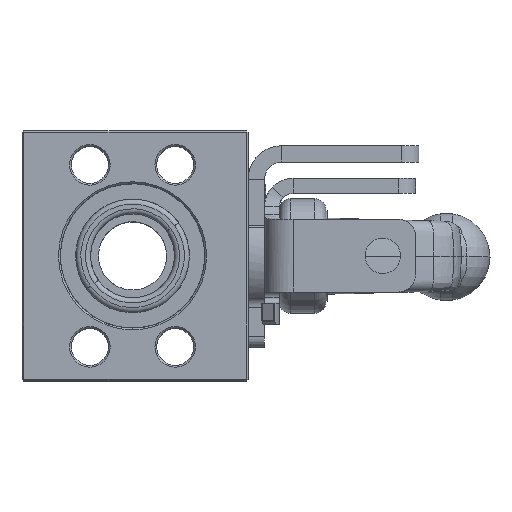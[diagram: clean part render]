
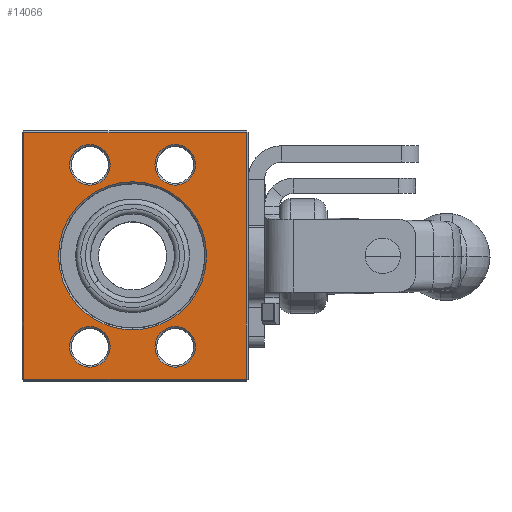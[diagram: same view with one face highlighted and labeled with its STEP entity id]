
A CAD part, top view. The second image highlights one B-rep face of the part: STEP entity #14066.
In plain terms, the highlighted planar face has unit normal (0, 0, 1).
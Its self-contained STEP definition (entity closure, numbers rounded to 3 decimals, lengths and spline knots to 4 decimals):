
#256 = AXIS2_PLACEMENT_3D ( 'NONE', #37894, #55593, #33848 ) ;
#3300 = CARTESIAN_POINT ( 'NONE',  ( -0.8803, 1.3105, 2.4498 ) ) ;
#3317 = CARTESIAN_POINT ( 'NONE',  ( -0.6343, 0.3105, 2.4498 ) ) ;
#5160 = CARTESIAN_POINT ( 'NONE',  ( -2.0953, -0.0645, 2.4498 ) ) ;
#5373 = EDGE_LOOP ( 'NONE', ( #8270, #25576, #51710, #26348 ) ) ;
#5389 = EDGE_LOOP ( 'NONE', ( #22690, #28687 ) ) ;
#5859 = CARTESIAN_POINT ( 'NONE',  ( 0.3697, -0.0445, 2.4498 ) ) ;
#5953 = ORIENTED_EDGE ( 'NONE', *, *, #30851, .T. ) ;
#6198 = FACE_BOUND ( 'NONE', #12306, .T. ) ;
#6966 = CARTESIAN_POINT ( 'NONE',  ( -2.0753, 2.6655, 2.4498 ) ) ;
#7056 = FACE_BOUND ( 'NONE', #13728, .T. ) ;
#7223 = DIRECTION ( 'NONE',  ( 1., 0., 0. ) ) ;
#8003 = DIRECTION ( 'NONE',  ( -1., 0., 0. ) ) ;
#8270 = ORIENTED_EDGE ( 'NONE', *, *, #38077, .T. ) ;
#10489 = VERTEX_POINT ( 'NONE', #53857 ) ;
#10975 = EDGE_LOOP ( 'NONE', ( #50389, #37295 ) ) ;
#11819 = CARTESIAN_POINT ( 'NONE',  ( -0.1883, 2.3105, 2.4498 ) ) ;
#11825 = VERTEX_POINT ( 'NONE', #50076 ) ;
#12306 = EDGE_LOOP ( 'NONE', ( #46805, #5953 ) ) ;
#12334 = VERTEX_POINT ( 'NONE', #14308 ) ;
#12631 = CARTESIAN_POINT ( 'NONE',  ( -1.3493, 0.3105, 2.4498 ) ) ;
#13728 = EDGE_LOOP ( 'NONE', ( #24029, #20302 ) ) ;
#14066 = ADVANCED_FACE ( 'NONE', ( #6198, #7056, #46714, #24703, #42361, #53512 ), #36089, .F. ) ;
#14231 = VERTEX_POINT ( 'NONE', #11819 ) ;
#14308 = CARTESIAN_POINT ( 'NONE',  ( -0.1883, 0.3105, 2.4498 ) ) ;
#14341 = EDGE_CURVE ( 'NONE', #52776, #14231, #38093, .T. ) ;
#14724 = DIRECTION ( 'NONE',  ( 0., 1., 0. ) ) ;
#14750 = AXIS2_PLACEMENT_3D ( 'NONE', #3300, #16296, #21516 ) ;
#15357 = DIRECTION ( 'NONE',  ( 0., 0., -1. ) ) ;
#15712 = LINE ( 'NONE', #54885, #29536 ) ;
#15923 = VERTEX_POINT ( 'NONE', #33415 ) ;
#16167 = CARTESIAN_POINT ( 'NONE',  ( -2.0753, -0.0645, 2.4498 ) ) ;
#16253 = DIRECTION ( 'NONE',  ( 0., 0., -1. ) ) ;
#16296 = DIRECTION ( 'NONE',  ( 0., 0., -1. ) ) ;
#17353 = DIRECTION ( 'NONE',  ( -1., 0., 0. ) ) ;
#17829 = DIRECTION ( 'NONE',  ( 0., 0., -1. ) ) ;
#18172 = EDGE_CURVE ( 'NONE', #45251, #43748, #35693, .T. ) ;
#18621 = EDGE_LOOP ( 'NONE', ( #18959, #51719 ) ) ;
#18714 = CARTESIAN_POINT ( 'NONE',  ( -1.1263, 2.3105, 2.4498 ) ) ;
#18728 = CIRCLE ( 'NONE', #25219, 0.223 ) ;
#18835 = VERTEX_POINT ( 'NONE', #6966 ) ;
#18857 = AXIS2_PLACEMENT_3D ( 'NONE', #12631, #17829, #8003 ) ;
#18959 = ORIENTED_EDGE ( 'NONE', *, *, #20675, .T. ) ;
#19025 = AXIS2_PLACEMENT_3D ( 'NONE', #19464, #31667, #40949 ) ;
#19464 = CARTESIAN_POINT ( 'NONE',  ( -0.8803, 1.3105, 2.4498 ) ) ;
#20302 = ORIENTED_EDGE ( 'NONE', *, *, #43144, .T. ) ;
#20516 = AXIS2_PLACEMENT_3D ( 'NONE', #5160, #33072, #44814 ) ;
#20575 = VERTEX_POINT ( 'NONE', #54448 ) ;
#20675 = EDGE_CURVE ( 'NONE', #14231, #52776, #27864, .T. ) ;
#21095 = DIRECTION ( 'NONE',  ( 0., 0., -1. ) ) ;
#21516 = DIRECTION ( 'NONE',  ( -1., 0., 0. ) ) ;
#21653 = CARTESIAN_POINT ( 'NONE',  ( -0.4113, 2.3105, 2.4498 ) ) ;
#22126 = VERTEX_POINT ( 'NONE', #18714 ) ;
#22690 = ORIENTED_EDGE ( 'NONE', *, *, #24681, .T. ) ;
#23719 = DIRECTION ( 'NONE',  ( 0., 0., -1. ) ) ;
#24029 = ORIENTED_EDGE ( 'NONE', *, *, #47732, .T. ) ;
#24100 = EDGE_CURVE ( 'NONE', #33456, #12334, #18728, .T. ) ;
#24141 = CARTESIAN_POINT ( 'NONE',  ( -1.5723, 0.3105, 2.4498 ) ) ;
#24531 = VECTOR ( 'NONE', #7223, 39.3701 ) ;
#24681 = EDGE_CURVE ( 'NONE', #12334, #33456, #46500, .T. ) ;
#24703 = FACE_BOUND ( 'NONE', #10975, .T. ) ;
#25208 = CIRCLE ( 'NONE', #18857, 0.223 ) ;
#25219 = AXIS2_PLACEMENT_3D ( 'NONE', #30667, #57064, #17353 ) ;
#25576 = ORIENTED_EDGE ( 'NONE', *, *, #55319, .T. ) ;
#26003 = AXIS2_PLACEMENT_3D ( 'NONE', #50654, #23719, #41385 ) ;
#26085 = AXIS2_PLACEMENT_3D ( 'NONE', #55677, #16253, #38281 ) ;
#26348 = ORIENTED_EDGE ( 'NONE', *, *, #51591, .T. ) ;
#27864 = CIRCLE ( 'NONE', #26003, 0.223 ) ;
#28687 = ORIENTED_EDGE ( 'NONE', *, *, #24100, .T. ) ;
#28818 = AXIS2_PLACEMENT_3D ( 'NONE', #21653, #56730, #35256 ) ;
#28854 = EDGE_CURVE ( 'NONE', #53261, #15923, #45748, .T. ) ;
#29536 = VECTOR ( 'NONE', #51394, 39.3701 ) ;
#30667 = CARTESIAN_POINT ( 'NONE',  ( -0.4113, 0.3105, 2.4498 ) ) ;
#30851 = EDGE_CURVE ( 'NONE', #43748, #45251, #42495, .T. ) ;
#31667 = DIRECTION ( 'NONE',  ( 0., 0., -1. ) ) ;
#33072 = DIRECTION ( 'NONE',  ( 0., 0., -1. ) ) ;
#33195 = AXIS2_PLACEMENT_3D ( 'NONE', #39082, #21095, #33854 ) ;
#33415 = CARTESIAN_POINT ( 'NONE',  ( 0.3697, 2.6655, 2.4498 ) ) ;
#33456 = VERTEX_POINT ( 'NONE', #3317 ) ;
#33557 = LINE ( 'NONE', #53983, #24531 ) ;
#33558 = DIRECTION ( 'NONE',  ( 0., -1., 0. ) ) ;
#33848 = DIRECTION ( 'NONE',  ( -1., 0., 0. ) ) ;
#33854 = DIRECTION ( 'NONE',  ( -1., 0., 0. ) ) ;
#35256 = DIRECTION ( 'NONE',  ( -1., 0., 0. ) ) ;
#35344 = CIRCLE ( 'NONE', #26085, 0.223 ) ;
#35693 = CIRCLE ( 'NONE', #19025, 0.814 ) ;
#36089 = PLANE ( 'NONE',  #20516 ) ;
#37103 = CARTESIAN_POINT ( 'NONE',  ( -0.4113, 0.3105, 2.4498 ) ) ;
#37295 = ORIENTED_EDGE ( 'NONE', *, *, #50202, .T. ) ;
#37894 = CARTESIAN_POINT ( 'NONE',  ( -1.3493, 2.3105, 2.4498 ) ) ;
#38077 = EDGE_CURVE ( 'NONE', #18835, #10489, #46026, .T. ) ;
#38093 = CIRCLE ( 'NONE', #28818, 0.223 ) ;
#38142 = EDGE_CURVE ( 'NONE', #22126, #20575, #52977, .T. ) ;
#38161 = CARTESIAN_POINT ( 'NONE',  ( -1.6943, 1.3105, 2.4498 ) ) ;
#38187 = AXIS2_PLACEMENT_3D ( 'NONE', #37103, #15357, #51015 ) ;
#38281 = DIRECTION ( 'NONE',  ( -1., 0., 0. ) ) ;
#39082 = CARTESIAN_POINT ( 'NONE',  ( -1.3493, 2.3105, 2.4498 ) ) ;
#40949 = DIRECTION ( 'NONE',  ( -1., 0., 0. ) ) ;
#41385 = DIRECTION ( 'NONE',  ( -1., 0., 0. ) ) ;
#42361 = FACE_BOUND ( 'NONE', #5389, .T. ) ;
#42495 = CIRCLE ( 'NONE', #14750, 0.814 ) ;
#43144 = EDGE_CURVE ( 'NONE', #51634, #11825, #35344, .T. ) ;
#43748 = VERTEX_POINT ( 'NONE', #38161 ) ;
#44814 = DIRECTION ( 'NONE',  ( -1., 0., 0. ) ) ;
#45084 = CARTESIAN_POINT ( 'NONE',  ( -0.6343, 2.3105, 2.4498 ) ) ;
#45251 = VERTEX_POINT ( 'NONE', #48022 ) ;
#45748 = LINE ( 'NONE', #54456, #49140 ) ;
#46026 = LINE ( 'NONE', #16167, #50190 ) ;
#46500 = CIRCLE ( 'NONE', #38187, 0.223 ) ;
#46714 = FACE_BOUND ( 'NONE', #18621, .T. ) ;
#46805 = ORIENTED_EDGE ( 'NONE', *, *, #18172, .T. ) ;
#47732 = EDGE_CURVE ( 'NONE', #11825, #51634, #25208, .T. ) ;
#48022 = CARTESIAN_POINT ( 'NONE',  ( -0.0663, 1.3105, 2.4498 ) ) ;
#48968 = CIRCLE ( 'NONE', #33195, 0.223 ) ;
#49140 = VECTOR ( 'NONE', #14724, 39.3701 ) ;
#50076 = CARTESIAN_POINT ( 'NONE',  ( -1.1263, 0.3105, 2.4498 ) ) ;
#50190 = VECTOR ( 'NONE', #33558, 39.3701 ) ;
#50202 = EDGE_CURVE ( 'NONE', #20575, #22126, #48968, .T. ) ;
#50389 = ORIENTED_EDGE ( 'NONE', *, *, #38142, .T. ) ;
#50654 = CARTESIAN_POINT ( 'NONE',  ( -0.4113, 2.3105, 2.4498 ) ) ;
#51015 = DIRECTION ( 'NONE',  ( -1., 0., 0. ) ) ;
#51394 = DIRECTION ( 'NONE',  ( -1., 0., 0. ) ) ;
#51591 = EDGE_CURVE ( 'NONE', #15923, #18835, #15712, .T. ) ;
#51634 = VERTEX_POINT ( 'NONE', #24141 ) ;
#51710 = ORIENTED_EDGE ( 'NONE', *, *, #28854, .T. ) ;
#51719 = ORIENTED_EDGE ( 'NONE', *, *, #14341, .T. ) ;
#52776 = VERTEX_POINT ( 'NONE', #45084 ) ;
#52977 = CIRCLE ( 'NONE', #256, 0.223 ) ;
#53261 = VERTEX_POINT ( 'NONE', #5859 ) ;
#53512 = FACE_OUTER_BOUND ( 'NONE', #5373, .T. ) ;
#53857 = CARTESIAN_POINT ( 'NONE',  ( -2.0753, -0.0445, 2.4498 ) ) ;
#53983 = CARTESIAN_POINT ( 'NONE',  ( -2.0953, -0.0445, 2.4498 ) ) ;
#54448 = CARTESIAN_POINT ( 'NONE',  ( -1.5723, 2.3105, 2.4498 ) ) ;
#54456 = CARTESIAN_POINT ( 'NONE',  ( 0.3697, -0.0645, 2.4498 ) ) ;
#54885 = CARTESIAN_POINT ( 'NONE',  ( -2.0953, 2.6655, 2.4498 ) ) ;
#55319 = EDGE_CURVE ( 'NONE', #10489, #53261, #33557, .T. ) ;
#55593 = DIRECTION ( 'NONE',  ( 0., 0., -1. ) ) ;
#55677 = CARTESIAN_POINT ( 'NONE',  ( -1.3493, 0.3105, 2.4498 ) ) ;
#56730 = DIRECTION ( 'NONE',  ( 0., 0., -1. ) ) ;
#57064 = DIRECTION ( 'NONE',  ( 0., 0., -1. ) ) ;
